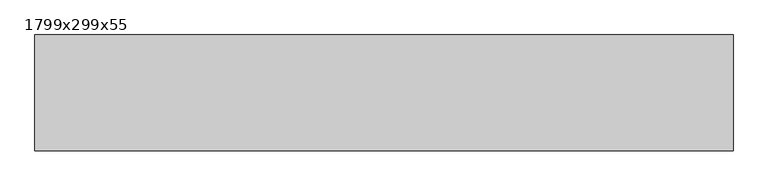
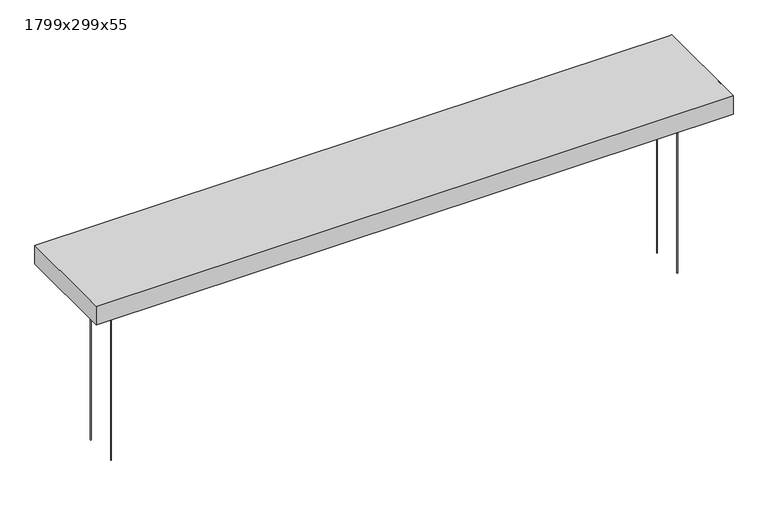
"""IFC4 building model written with IfcOpenShell, lengths in millimetres: proxy geometry, Texaa Panneaux_acoustiques Stereo suspendus_séparés : 1799x299x55."""

from ifc_helpers import new_model, si_unit, point, frame, frame_2d, origin, origin_with_axes, place, context, project, spatial, polyline, circle_curve, trimmed, segment, composite_curve, outline, extrude, faceted_brep, source, transform, mapped, element, save


def proxy_1799x299x55_c0e4cccd(model_context):
    return source(origin(), model_context, "Body", "SolidModel", [
        extrude(outline(composite_curve([segment(trimmed(circle_curve(frame_2d((-799.5, -49.5)), 0.75), [point((-800.25, -49.5))], [point((-798.75, -49.5))], False, "CARTESIAN"), True, "CONTINUOUS"), segment(trimmed(circle_curve(frame_2d((-799.5, -49.5)), 0.75), [point((-798.75, -49.5))], [point((-800.25, -49.5))], False, "CARTESIAN"), True, "CONTINUOUS")], self_intersect=False)), origin_with_axes(), (0.0, 0.0, 1.0), 500.0),
        extrude(outline(composite_curve([segment(trimmed(circle_curve(frame_2d((799.5, -49.5)), 0.75), [point((798.75, -49.5))], [point((800.25, -49.5))], False, "CARTESIAN"), True, "CONTINUOUS"), segment(trimmed(circle_curve(frame_2d((799.5, -49.5)), 0.75), [point((800.25, -49.5))], [point((798.75, -49.5))], False, "CARTESIAN"), True, "CONTINUOUS")], self_intersect=False)), origin_with_axes(), (0.0, 0.0, 1.0), 500.0),
        extrude(outline(composite_curve([segment(trimmed(circle_curve(frame_2d((799.5, 49.5)), 0.75), [point((798.75, 49.5))], [point((800.25, 49.5))], False, "CARTESIAN"), True, "CONTINUOUS"), segment(trimmed(circle_curve(frame_2d((799.5, 49.5)), 0.75), [point((800.25, 49.5))], [point((798.75, 49.5))], False, "CARTESIAN"), True, "CONTINUOUS")], self_intersect=False)), origin_with_axes(), (0.0, 0.0, 1.0), 500.0),
        extrude(outline(composite_curve([segment(trimmed(circle_curve(frame_2d((-799.5, 49.5)), 0.75), [point((-800.25, 49.5))], [point((-798.75, 49.5))], False, "CARTESIAN"), True, "CONTINUOUS"), segment(trimmed(circle_curve(frame_2d((-799.5, 49.5)), 0.75), [point((-798.75, 49.5))], [point((-800.25, 49.5))], False, "CARTESIAN"), True, "CONTINUOUS")], self_intersect=False)), origin_with_axes(), (0.0, 0.0, 1.0), 500.0),
        extrude(outline(polyline([(-898.5, -148.5), (-898.5, 148.5), (898.5, 148.5), (898.5, -148.5), (-898.5, -148.5)])), frame((0.0, 0.0, 501.0), z_axis=(0.0, 0.0, 1.0), x_axis=(1.0, 0.0, 0.0)), (0.0, 0.0, 1.0), 53.0),
        faceted_brep([(899.5, 149.5, 555.0), (893.400742, 149.5, 555.0), (564.0408083, 149.5, 555.0), (-899.5, 149.5, 555.0), (-899.5, -93.7455262, 555.0), (-899.5, -148.4862823, 555.0), (-899.5, -149.5, 555.0), (899.5, -149.5, 555.0), (-899.5, -149.5, 500.0), (-899.5, 149.5, 500.0), (899.5, 149.5, 500.0), (899.5, -149.5, 500.0), (-849.5, 99.5, 500.0), (-849.5, -99.5, 500.0), (849.5, -99.5, 500.0), (849.5, 99.5, 500.0), (-899.5, -149.5, 554.0), (899.5, 149.5, 554.0), (849.5, 99.5, 501.0), (-849.5, 99.5, 501.0), (849.5, -99.5, 501.0), (-849.5, -99.5, 501.0), (898.5, -148.5, 554.0), (-893.4832776, -148.5, 554.0), (-898.5, -148.5, 554.0), (-898.5, -148.3200788, 554.0), (-898.5, -93.5793228, 554.0), (-898.5, 148.5, 554.0), (558.0240859, 148.5, 554.0), (887.3840196, 148.5, 554.0), (893.4832776, 148.5, 554.0), (898.5, 148.5, 554.0), (-898.5, -148.5, 501.0), (898.5, -148.5, 501.0), (898.5, 148.5, 501.0), (-898.5, 148.5, 501.0)], [[[0, 1, 2, 3, 4, 5, 6, 7]], [[8, 9, 10, 11], [12, 13, 14, 15]], [[8, 16, 6, 5, 4, 3, 9]], [[9, 3, 2, 1, 0, 17, 10]], [[7, 11, 10, 17, 0]], [[6, 16, 8, 11, 7]], [[12, 15, 18, 19]], [[15, 14, 20, 18]], [[14, 13, 21, 20]], [[19, 21, 13, 12]], [[22, 23, 24, 25, 26, 27, 28, 29, 30, 31]], [[32, 33, 34, 35], [18, 20, 21, 19]], [[35, 27, 26, 25, 24, 32]], [[34, 31, 30, 29, 28, 27, 35]], [[31, 34, 33, 22]], [[32, 24, 23, 22, 33]]]),
    ])


if __name__ == "__main__":
    model = new_model("IFC4")
    model_context = context("Model", 3, world=origin())
    ifc_project = project(units=[si_unit("LENGTHUNIT", "METRE", prefix="MILLI")], contexts=[model_context])
    site = spatial("IfcSite", under=ifc_project)
    building = spatial("IfcBuilding", under=site)
    placement = place(None, origin())
    proxy_1799x299x55_shape = proxy_1799x299x55_c0e4cccd(model_context)
    element("IfcBuildingElementProxy", 1, Name="Texaa Panneaux_acoustiques Stereo suspendus_séparés : 1799x299x55", ObjectType="Texaa Panneaux_acoustiques Stereo suspendus_séparés : 1799x299x55", at=placement, inside=building, context=model_context, shape_type="MappedRepresentation", body=[
        mapped(proxy_1799x299x55_shape, transform((0.0, 0.0, 0.0), x_axis=(1.0, 0.0, 0.0), y_axis=(0.0, 1.0, 0.0), z_axis=(0.0, 0.0, 1.0))),
    ])
    save(model, "model.ifc")
